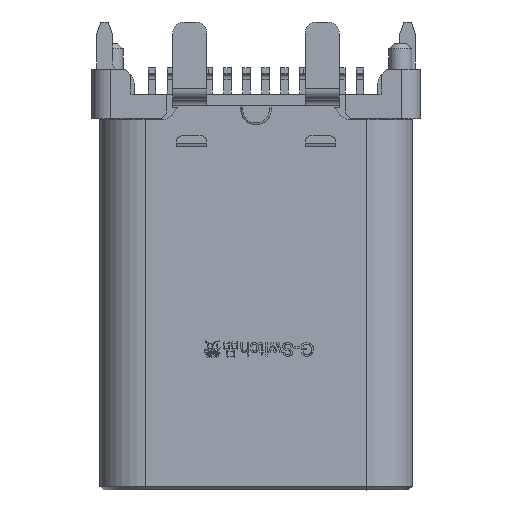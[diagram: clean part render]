
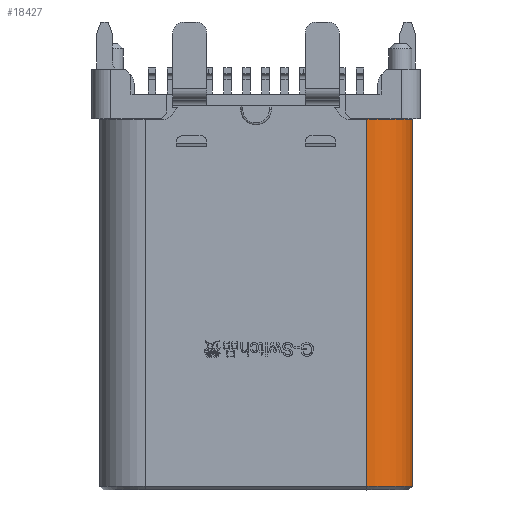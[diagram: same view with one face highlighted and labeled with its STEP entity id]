
A CAD part, front view. The second image highlights one B-rep face of the part: STEP entity #18427.
In plain terms, the highlighted cylindrical face has radius 1.2 mm (diameter 2.4 mm), a partial arc.
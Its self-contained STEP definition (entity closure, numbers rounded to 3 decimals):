
#1239 = ORIENTED_EDGE ( 'NONE', *, *, #77239, .T. ) ;
#2253 = DIRECTION ( 'NONE',  ( -1., 0., 0. ) ) ;
#4764 = CARTESIAN_POINT ( 'NONE',  ( 2.926, 1.2, 9.79 ) ) ;
#8538 = FACE_OUTER_BOUND ( 'NONE', #29548, .T. ) ;
#9528 = AXIS2_PLACEMENT_3D ( 'NONE', #54254, #55813, #25957 ) ;
#10612 = CARTESIAN_POINT ( 'NONE',  ( 2.926, 1.2, 10.549 ) ) ;
#12194 = DIRECTION ( 'NONE',  ( 0., 0., -1. ) ) ;
#13797 = ORIENTED_EDGE ( 'NONE', *, *, #62224, .T. ) ;
#17446 = AXIS2_PLACEMENT_3D ( 'NONE', #42747, #67509, #2253 ) ;
#18190 = EDGE_CURVE ( 'NONE', #66915, #65708, #30016, .T. ) ;
#18427 = ADVANCED_FACE ( 'NONE', ( #8538 ), #56844, .T. ) ;
#22555 = ORIENTED_EDGE ( 'NONE', *, *, #58272, .T. ) ;
#22745 = VECTOR ( 'NONE', #12194, 1000. ) ;
#25957 = DIRECTION ( 'NONE',  ( -1., 0., 0. ) ) ;
#28513 = DIRECTION ( 'NONE',  ( 0., 0., -1. ) ) ;
#29548 = EDGE_LOOP ( 'NONE', ( #13797, #1239, #60580, #22555 ) ) ;
#29693 = DIRECTION ( 'NONE',  ( -1., 0., 0. ) ) ;
#30016 = CIRCLE ( 'NONE', #17446, 1.2 ) ;
#30277 = LINE ( 'NONE', #61691, #22745 ) ;
#31789 = CARTESIAN_POINT ( 'NONE',  ( 2.926, 1.2, 0.1 ) ) ;
#33666 = VERTEX_POINT ( 'NONE', #4764 ) ;
#42747 = CARTESIAN_POINT ( 'NONE',  ( 2.926, 0., 0.1 ) ) ;
#43291 = CARTESIAN_POINT ( 'NONE',  ( 2.926, -1.2, 9.79 ) ) ;
#52476 = CARTESIAN_POINT ( 'NONE',  ( 2.926, 0., 10.549 ) ) ;
#54254 = CARTESIAN_POINT ( 'NONE',  ( 2.926, 0., 9.79 ) ) ;
#55758 = CARTESIAN_POINT ( 'NONE',  ( 2.926, -1.2, 0.1 ) ) ;
#55813 = DIRECTION ( 'NONE',  ( 0., 0., -1. ) ) ;
#56844 = CYLINDRICAL_SURFACE ( 'NONE', #77689, 1.2 ) ;
#58272 = EDGE_CURVE ( 'NONE', #65708, #33666, #64433, .T. ) ;
#60580 = ORIENTED_EDGE ( 'NONE', *, *, #18190, .T. ) ;
#61691 = CARTESIAN_POINT ( 'NONE',  ( 2.926, -1.2, 5.1 ) ) ;
#62224 = EDGE_CURVE ( 'NONE', #33666, #65130, #68502, .T. ) ;
#62924 = VECTOR ( 'NONE', #76617, 1000. ) ;
#64433 = LINE ( 'NONE', #10612, #62924 ) ;
#65130 = VERTEX_POINT ( 'NONE', #43291 ) ;
#65708 = VERTEX_POINT ( 'NONE', #31789 ) ;
#66915 = VERTEX_POINT ( 'NONE', #55758 ) ;
#67509 = DIRECTION ( 'NONE',  ( 0., 0., 1. ) ) ;
#68502 = CIRCLE ( 'NONE', #9528, 1.2 ) ;
#76617 = DIRECTION ( 'NONE',  ( 0., 0., 1. ) ) ;
#77239 = EDGE_CURVE ( 'NONE', #65130, #66915, #30277, .T. ) ;
#77689 = AXIS2_PLACEMENT_3D ( 'NONE', #52476, #28513, #29693 ) ;
